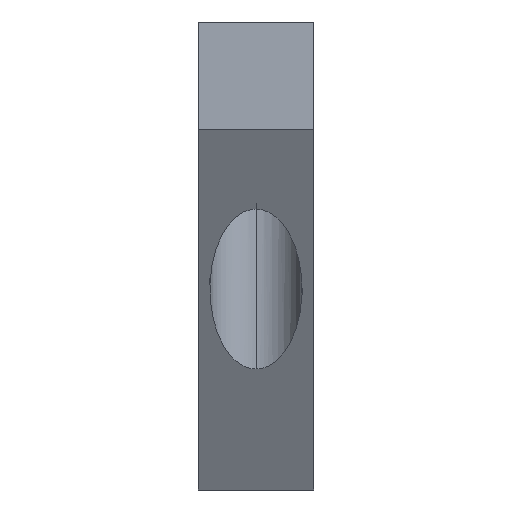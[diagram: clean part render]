
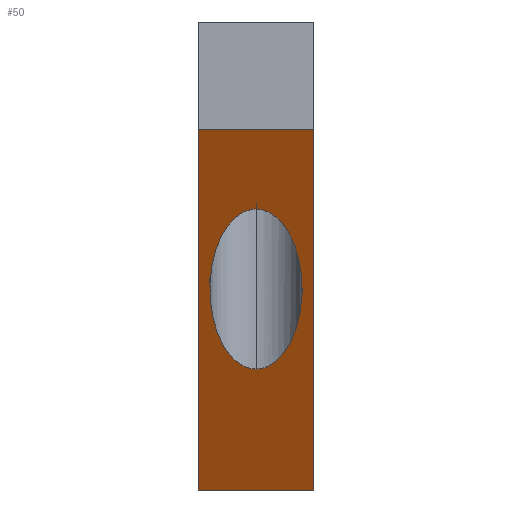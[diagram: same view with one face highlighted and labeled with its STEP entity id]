
A CAD part, left-side view. The second image highlights one B-rep face of the part: STEP entity #50.
In plain terms, the highlighted planar face has unit normal (-0.866, 0, -0.5).
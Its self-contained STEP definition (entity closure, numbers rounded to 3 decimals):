
#7 = DIRECTION ( 'NONE',  ( 0., -1., 0. ) ) ;
#13 = CARTESIAN_POINT ( 'NONE',  ( -18., 4., -6.823 ) ) ;
#25 = CARTESIAN_POINT ( 'NONE',  ( -10.97, 2.5, -19. ) ) ;
#50 = ADVANCED_FACE ( 'NONE', ( #691, #1262 ), #658, .F. ) ;
#57 = ORIENTED_EDGE ( 'NONE', *, *, #378, .F. ) ;
#98 = CARTESIAN_POINT ( 'NONE',  ( -10.97, -2.5, -19. ) ) ;
#102 = CARTESIAN_POINT ( 'NONE',  ( -14., -4., -13.751 ) ) ;
#131 =( BOUNDED_CURVE ( )  B_SPLINE_CURVE ( 3, ( #598, #1370, #102, #259 ),
 .UNSPECIFIED., .F., .F. ) 
 B_SPLINE_CURVE_WITH_KNOTS ( ( 4, 4 ),
 ( 3.142, 6.283 ),
 .UNSPECIFIED. ) 
 CURVE ( )  GEOMETRIC_REPRESENTATION_ITEM ( )  RATIONAL_B_SPLINE_CURVE ( ( 1., 0.333, 0.333, 1. ) ) 
 REPRESENTATION_ITEM ( '' )  );
#154 = ORIENTED_EDGE ( 'NONE', *, *, #1285, .T. ) ;
#158 = ORIENTED_EDGE ( 'NONE', *, *, #502, .T. ) ;
#164 = AXIS2_PLACEMENT_3D ( 'NONE', #25, #989, #660 ) ;
#208 = LINE ( 'NONE', #98, #939 ) ;
#235 = VERTEX_POINT ( 'NONE', #1233 ) ;
#246 = VERTEX_POINT ( 'NONE', #1224 ) ;
#259 = CARTESIAN_POINT ( 'NONE',  ( -14., 0., -13.751 ) ) ;
#348 = LINE ( 'NONE', #965, #975 ) ;
#378 = EDGE_CURVE ( 'NONE', #235, #608, #1341, .T. ) ;
#400 = CARTESIAN_POINT ( 'NONE',  ( -20., -2.5, -3.359 ) ) ;
#502 = EDGE_CURVE ( 'NONE', #246, #608, #512, .T. ) ;
#505 = DIRECTION ( 'NONE',  ( -0.5, 0., 0.866 ) ) ;
#512 = LINE ( 'NONE', #400, #726 ) ;
#545 = EDGE_CURVE ( 'NONE', #754, #246, #208, .T. ) ;
#574 = VECTOR ( 'NONE', #1036, 1000. ) ;
#587 = CARTESIAN_POINT ( 'NONE',  ( -10.97, -2.5, -19. ) ) ;
#598 = CARTESIAN_POINT ( 'NONE',  ( -18., 0., -6.823 ) ) ;
#608 = VERTEX_POINT ( 'NONE', #617 ) ;
#617 = CARTESIAN_POINT ( 'NONE',  ( -20., 2.5, -3.359 ) ) ;
#658 = PLANE ( 'NONE',  #164 ) ;
#660 = DIRECTION ( 'NONE',  ( 0.5, 0., -0.866 ) ) ;
#675 = EDGE_CURVE ( 'NONE', #1272, #967, #131, .T. ) ;
#691 = FACE_BOUND ( 'NONE', #1030, .T. ) ;
#726 = VECTOR ( 'NONE', #1263, 1000. ) ;
#750 = CARTESIAN_POINT ( 'NONE',  ( -14., 4., -13.751 ) ) ;
#754 = VERTEX_POINT ( 'NONE', #587 ) ;
#757 = CARTESIAN_POINT ( 'NONE',  ( -18., 0., -6.823 ) ) ;
#761 = CARTESIAN_POINT ( 'NONE',  ( -14., 0., -13.751 ) ) ;
#767 = CARTESIAN_POINT ( 'NONE',  ( -18., 0., -6.823 ) ) ;
#786 = ORIENTED_EDGE ( 'NONE', *, *, #545, .T. ) ;
#858 = CARTESIAN_POINT ( 'NONE',  ( -14., 0., -13.751 ) ) ;
#928 = CARTESIAN_POINT ( 'NONE',  ( -10.97, 2.5, -19. ) ) ;
#939 = VECTOR ( 'NONE', #505, 1000. ) ;
#965 = CARTESIAN_POINT ( 'NONE',  ( -10.97, 2.5, -19. ) ) ;
#967 = VERTEX_POINT ( 'NONE', #761 ) ;
#975 = VECTOR ( 'NONE', #7, 1000. ) ;
#989 = DIRECTION ( 'NONE',  ( 0.866, 0., 0.5 ) ) ;
#1030 = EDGE_LOOP ( 'NONE', ( #1069, #1258 ) ) ;
#1036 = DIRECTION ( 'NONE',  ( -0.5, 0., 0.866 ) ) ;
#1069 = ORIENTED_EDGE ( 'NONE', *, *, #675, .T. ) ;
#1091 =( BOUNDED_CURVE ( )  B_SPLINE_CURVE ( 3, ( #858, #750, #13, #767 ),
 .UNSPECIFIED., .F., .F. ) 
 B_SPLINE_CURVE_WITH_KNOTS ( ( 4, 4 ),
 ( 0., 3.142 ),
 .UNSPECIFIED. ) 
 CURVE ( )  GEOMETRIC_REPRESENTATION_ITEM ( )  RATIONAL_B_SPLINE_CURVE ( ( 1., 0.333, 0.333, 1. ) ) 
 REPRESENTATION_ITEM ( '' )  );
#1224 = CARTESIAN_POINT ( 'NONE',  ( -20., -2.5, -3.359 ) ) ;
#1233 = CARTESIAN_POINT ( 'NONE',  ( -10.97, 2.5, -19. ) ) ;
#1258 = ORIENTED_EDGE ( 'NONE', *, *, #1371, .T. ) ;
#1262 = FACE_OUTER_BOUND ( 'NONE', #1367, .T. ) ;
#1263 = DIRECTION ( 'NONE',  ( 0., 1., 0. ) ) ;
#1272 = VERTEX_POINT ( 'NONE', #757 ) ;
#1285 = EDGE_CURVE ( 'NONE', #235, #754, #348, .T. ) ;
#1341 = LINE ( 'NONE', #928, #574 ) ;
#1367 = EDGE_LOOP ( 'NONE', ( #786, #158, #57, #154 ) ) ;
#1370 = CARTESIAN_POINT ( 'NONE',  ( -18., -4., -6.823 ) ) ;
#1371 = EDGE_CURVE ( 'NONE', #967, #1272, #1091, .T. ) ;
